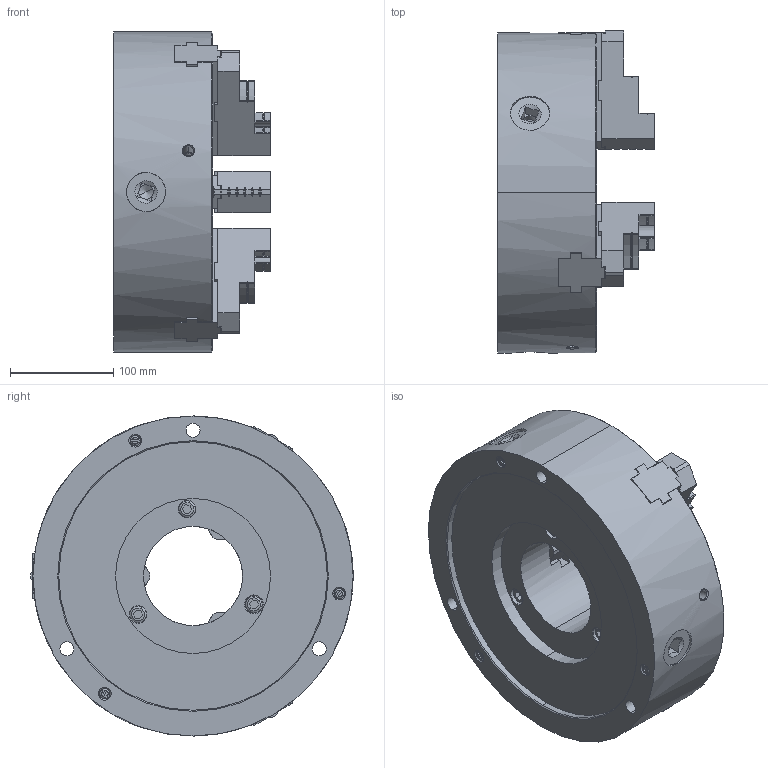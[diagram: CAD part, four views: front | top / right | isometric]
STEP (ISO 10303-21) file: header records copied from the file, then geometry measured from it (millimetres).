
FILE_DESCRIPTION (( 'STEP AP214' ), '1' );
FILE_NAME ('61S263391-0_JN12TN.STEP', '2026-03-11T00:43:48', ( '' ), ( '' ), 'SwSTEP 2.0', 'SolidWorks 2022', '' );
FILE_SCHEMA (( 'AUTOMOTIVE_DESIGN' ));
Length unit declared in the file: millimetre
Products named in the file (5): Part1^61S263391-0_JN12TN; 61S263391-0_JN12TN; 61S313822_BASE JAW; 61S313823_TOPJAW; Bアナツキ M12×25
Assembly tree (13 placements, depth 2):
  61S263391-0_JN12TN
    61S313822_BASE JAW  x3
    61S313823_TOPJAW  x3
    Bアナツキ M12×25  x6
    Part1^61S263391-0_JN12TN
Bounding box: 152 x 312 x 310 mm (x, y, z)
Volume: 6458131.3 mm3; surface area: 476178.3 mm2
Topology: 13 solids, 19 shells, 846 faces, 2198 edges, 1420 vertices
Faces by surface type: plane 389, cylinder 245, cone 168, torus 40, sphere 4
Entity records: 14894 total; most frequent: CARTESIAN_POINT 3460, DIRECTION 2404, ORIENTED_EDGE 2298, EDGE_CURVE 1149, AXIS2_PLACEMENT_3D 907, VERTEX_POINT 743, VECTOR 590, LINE 590
